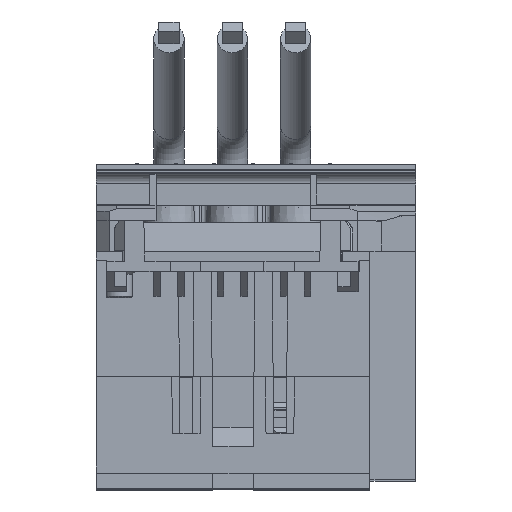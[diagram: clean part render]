
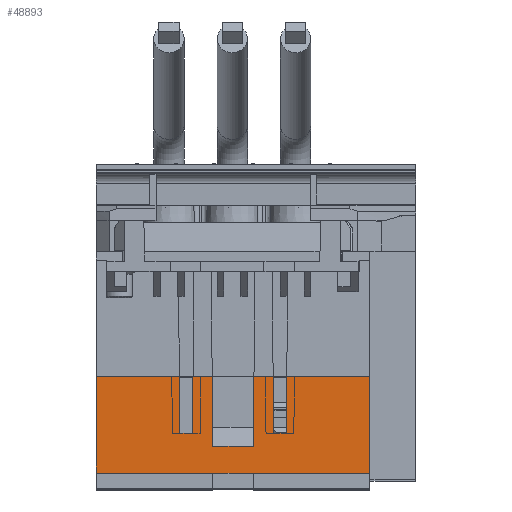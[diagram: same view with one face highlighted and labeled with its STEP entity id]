
A CAD part, top view. The second image highlights one B-rep face of the part: STEP entity #48893.
In plain terms, the highlighted planar face has unit normal (0, -0.009, 1).
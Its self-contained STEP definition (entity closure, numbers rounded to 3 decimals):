
#698 = ORIENTED_EDGE ( 'NONE', *, *, #84234, .T. ) ;
#805 = LINE ( 'NONE', #15078, #18890 ) ;
#3164 = EDGE_CURVE ( 'NONE', #59405, #69187, #29570, .T. ) ;
#4003 = VECTOR ( 'NONE', #42588, 1000. ) ;
#4058 = EDGE_CURVE ( 'NONE', #98570, #33558, #80145, .T. ) ;
#4220 = EDGE_CURVE ( 'NONE', #90945, #52188, #40220, .T. ) ;
#4389 = DIRECTION ( 'NONE',  ( -1., 0., 0. ) ) ;
#5443 = AXIS2_PLACEMENT_3D ( 'NONE', #92146, #85431, #39107 ) ;
#5594 = ORIENTED_EDGE ( 'NONE', *, *, #65256, .F. ) ;
#5787 = EDGE_CURVE ( 'NONE', #31001, #24300, #27935, .T. ) ;
#6821 = CARTESIAN_POINT ( 'NONE',  ( -8., -15.7, 199.902 ) ) ;
#7823 = VECTOR ( 'NONE', #25969, 1000. ) ;
#8043 = VECTOR ( 'NONE', #75244, 1000. ) ;
#9350 = DIRECTION ( 'NONE',  ( 0., -1., -0.009 ) ) ;
#10240 = EDGE_CURVE ( 'NONE', #69187, #79031, #42221, .T. ) ;
#10772 = LINE ( 'NONE', #44475, #79651 ) ;
#11869 = DIRECTION ( 'NONE',  ( -1., 0., 0. ) ) ;
#11957 = CARTESIAN_POINT ( 'NONE',  ( -27., -4.5, 199.999 ) ) ;
#12541 = CARTESIAN_POINT ( 'NONE',  ( -26., -15.7, 199.902 ) ) ;
#13113 = DIRECTION ( 'NONE',  ( 1., 0., 0. ) ) ;
#13457 = ORIENTED_EDGE ( 'NONE', *, *, #3164, .T. ) ;
#15078 = CARTESIAN_POINT ( 'NONE',  ( -27., 18.5, 200.2 ) ) ;
#15311 = LINE ( 'NONE', #37369, #8043 ) ;
#15885 = PLANE ( 'NONE',  #5443 ) ;
#16830 = LINE ( 'NONE', #37519, #51872 ) ;
#17399 = ORIENTED_EDGE ( 'NONE', *, *, #28994, .T. ) ;
#18436 = CARTESIAN_POINT ( 'NONE',  ( -27., -23.5, 199.833 ) ) ;
#18850 = VERTEX_POINT ( 'NONE', #19587 ) ;
#18887 = LINE ( 'NONE', #26280, #36946 ) ;
#18890 = VECTOR ( 'NONE', #9350, 1000. ) ;
#18983 = CARTESIAN_POINT ( 'NONE',  ( -26., -4.5, 199.999 ) ) ;
#19259 = CARTESIAN_POINT ( 'NONE',  ( -26., -15.7, 199.902 ) ) ;
#19587 = CARTESIAN_POINT ( 'NONE',  ( 4., -23.5, 199.833 ) ) ;
#20169 = LINE ( 'NONE', #19259, #53987 ) ;
#20214 = LINE ( 'NONE', #58701, #54041 ) ;
#20218 = ORIENTED_EDGE ( 'NONE', *, *, #30251, .T. ) ;
#20505 = ORIENTED_EDGE ( 'NONE', *, *, #64151, .T. ) ;
#20554 = DIRECTION ( 'NONE',  ( 1., 0., 0. ) ) ;
#20945 = VECTOR ( 'NONE', #73261, 1000. ) ;
#21684 = VERTEX_POINT ( 'NONE', #84166 ) ;
#22499 = VERTEX_POINT ( 'NONE', #92141 ) ;
#23607 = EDGE_CURVE ( 'NONE', #21684, #18850, #95360, .T. ) ;
#24057 = EDGE_CURVE ( 'NONE', #90945, #59704, #38487, .T. ) ;
#24300 = VERTEX_POINT ( 'NONE', #74189 ) ;
#24303 = DIRECTION ( 'NONE',  ( -0.009, -1., -0.009 ) ) ;
#25485 = VECTOR ( 'NONE', #46400, 1000. ) ;
#25493 = EDGE_CURVE ( 'NONE', #30395, #21684, #20214, .T. ) ;
#25517 = VECTOR ( 'NONE', #94459, 1000. ) ;
#25969 = DIRECTION ( 'NONE',  ( -0.009, -1., -0.009 ) ) ;
#26280 = CARTESIAN_POINT ( 'NONE',  ( -26., -4.5, 199.999 ) ) ;
#26379 = CARTESIAN_POINT ( 'NONE',  ( 8., -15.7, 199.902 ) ) ;
#27289 = DIRECTION ( 'NONE',  ( 1., 0., 0. ) ) ;
#27935 = LINE ( 'NONE', #32667, #25517 ) ;
#28863 = ORIENTED_EDGE ( 'NONE', *, *, #98124, .T. ) ;
#28994 = EDGE_CURVE ( 'NONE', #59704, #31001, #78179, .T. ) ;
#29080 = LINE ( 'NONE', #98774, #25485 ) ;
#29570 = LINE ( 'NONE', #95499, #7823 ) ;
#30251 = EDGE_CURVE ( 'NONE', #86601, #30395, #805, .T. ) ;
#30370 = CARTESIAN_POINT ( 'NONE',  ( 10.5, -15.7, 199.902 ) ) ;
#30395 = VERTEX_POINT ( 'NONE', #18436 ) ;
#31001 = VERTEX_POINT ( 'NONE', #26379 ) ;
#32401 = EDGE_LOOP ( 'NONE', ( #58626, #20218, #38113, #38689, #78245, #698, #67718, #98108, #17399, #39237, #5594, #13457, #70392, #28863, #93718, #86063, #74693, #20505 ) ) ;
#32667 = CARTESIAN_POINT ( 'NONE',  ( 8., -15.7, 199.902 ) ) ;
#33558 = VERTEX_POINT ( 'NONE', #6821 ) ;
#33655 = VECTOR ( 'NONE', #24303, 1000. ) ;
#36946 = VECTOR ( 'NONE', #27289, 1000. ) ;
#37369 = CARTESIAN_POINT ( 'NONE',  ( -26., -23.5, 199.833 ) ) ;
#37519 = CARTESIAN_POINT ( 'NONE',  ( 27., 18.5, 200.2 ) ) ;
#38113 = ORIENTED_EDGE ( 'NONE', *, *, #25493, .T. ) ;
#38463 = CARTESIAN_POINT ( 'NONE',  ( 4.122, -4.5, 199.999 ) ) ;
#38487 = LINE ( 'NONE', #47564, #33655 ) ;
#38689 = ORIENTED_EDGE ( 'NONE', *, *, #23607, .T. ) ;
#39107 = DIRECTION ( 'NONE',  ( 0., -1., -0.009 ) ) ;
#39237 = ORIENTED_EDGE ( 'NONE', *, *, #5787, .T. ) ;
#40220 = LINE ( 'NONE', #18983, #4003 ) ;
#40240 = VERTEX_POINT ( 'NONE', #99137 ) ;
#42221 = LINE ( 'NONE', #60228, #84535 ) ;
#42333 = CARTESIAN_POINT ( 'NONE',  ( -10.5, -15.7, 199.902 ) ) ;
#42534 = CARTESIAN_POINT ( 'NONE',  ( -4.003, -18.18, 199.88 ) ) ;
#42588 = DIRECTION ( 'NONE',  ( 1., 0., 0. ) ) ;
#43830 = EDGE_CURVE ( 'NONE', #33558, #48152, #20169, .T. ) ;
#44475 = CARTESIAN_POINT ( 'NONE',  ( -26., -4.5, 199.999 ) ) ;
#44618 = CARTESIAN_POINT ( 'NONE',  ( -7.902, -4.5, 199.999 ) ) ;
#46078 = CARTESIAN_POINT ( 'NONE',  ( 4.003, -18.18, 199.88 ) ) ;
#46400 = DIRECTION ( 'NONE',  ( -0.009, 1., 0.009 ) ) ;
#47564 = CARTESIAN_POINT ( 'NONE',  ( 10.778, 16.2, 200.18 ) ) ;
#48152 = VERTEX_POINT ( 'NONE', #42333 ) ;
#48893 = ADVANCED_FACE ( 'NONE', ( #81466 ), #15885, .T. ) ;
#50315 = VECTOR ( 'NONE', #11869, 1000. ) ;
#50953 = CARTESIAN_POINT ( 'NONE',  ( -26., -4.5, 199.999 ) ) ;
#51872 = VECTOR ( 'NONE', #68991, 1000. ) ;
#51892 = VECTOR ( 'NONE', #80696, 1000. ) ;
#52188 = VERTEX_POINT ( 'NONE', #57625 ) ;
#53987 = VECTOR ( 'NONE', #4389, 1000. ) ;
#54041 = VECTOR ( 'NONE', #13113, 1000. ) ;
#56044 = LINE ( 'NONE', #50953, #20945 ) ;
#57625 = CARTESIAN_POINT ( 'NONE',  ( 27., -4.5, 199.999 ) ) ;
#58481 = EDGE_CURVE ( 'NONE', #18850, #22499, #15311, .T. ) ;
#58626 = ORIENTED_EDGE ( 'NONE', *, *, #92065, .F. ) ;
#58701 = CARTESIAN_POINT ( 'NONE',  ( 4., -23.5, 199.833 ) ) ;
#59405 = VERTEX_POINT ( 'NONE', #38463 ) ;
#59704 = VERTEX_POINT ( 'NONE', #30370 ) ;
#59993 = DIRECTION ( 'NONE',  ( -0.009, 1., 0.009 ) ) ;
#60228 = CARTESIAN_POINT ( 'NONE',  ( -26., -18.18, 199.88 ) ) ;
#60898 = DIRECTION ( 'NONE',  ( -1., 0., 0. ) ) ;
#64151 = EDGE_CURVE ( 'NONE', #48152, #88227, #29080, .T. ) ;
#65256 = EDGE_CURVE ( 'NONE', #59405, #24300, #10772, .T. ) ;
#67718 = ORIENTED_EDGE ( 'NONE', *, *, #4220, .F. ) ;
#68991 = DIRECTION ( 'NONE',  ( 0., 1., 0.009 ) ) ;
#69187 = VERTEX_POINT ( 'NONE', #46078 ) ;
#70392 = ORIENTED_EDGE ( 'NONE', *, *, #10240, .T. ) ;
#70396 = DIRECTION ( 'NONE',  ( -0.009, -1., -0.009 ) ) ;
#73261 = DIRECTION ( 'NONE',  ( 1., 0., 0. ) ) ;
#74189 = CARTESIAN_POINT ( 'NONE',  ( 7.902, -4.5, 199.999 ) ) ;
#74693 = ORIENTED_EDGE ( 'NONE', *, *, #43830, .T. ) ;
#75244 = DIRECTION ( 'NONE',  ( 1., 0., 0. ) ) ;
#78179 = LINE ( 'NONE', #12541, #50315 ) ;
#78245 = ORIENTED_EDGE ( 'NONE', *, *, #58481, .T. ) ;
#78251 = CARTESIAN_POINT ( 'NONE',  ( 10.598, -4.5, 199.999 ) ) ;
#78914 = VECTOR ( 'NONE', #70396, 1000. ) ;
#79031 = VERTEX_POINT ( 'NONE', #42534 ) ;
#79651 = VECTOR ( 'NONE', #20554, 1000. ) ;
#80145 = LINE ( 'NONE', #85575, #78914 ) ;
#80696 = DIRECTION ( 'NONE',  ( 1., 0., 0. ) ) ;
#81466 = FACE_OUTER_BOUND ( 'NONE', #32401, .T. ) ;
#83257 = CARTESIAN_POINT ( 'NONE',  ( -4.003, -18.18, 199.88 ) ) ;
#84166 = CARTESIAN_POINT ( 'NONE',  ( -4., -23.5, 199.833 ) ) ;
#84234 = EDGE_CURVE ( 'NONE', #22499, #52188, #16830, .T. ) ;
#84535 = VECTOR ( 'NONE', #60898, 1000. ) ;
#85431 = DIRECTION ( 'NONE',  ( 0., -0.009, 1. ) ) ;
#85575 = CARTESIAN_POINT ( 'NONE',  ( -7.722, 16.2, 200.18 ) ) ;
#86063 = ORIENTED_EDGE ( 'NONE', *, *, #4058, .T. ) ;
#86601 = VERTEX_POINT ( 'NONE', #11957 ) ;
#86922 = LINE ( 'NONE', #83257, #97734 ) ;
#88227 = VERTEX_POINT ( 'NONE', #99705 ) ;
#88975 = EDGE_CURVE ( 'NONE', #98570, #40240, #18887, .T. ) ;
#90945 = VERTEX_POINT ( 'NONE', #78251 ) ;
#92065 = EDGE_CURVE ( 'NONE', #86601, #88227, #56044, .T. ) ;
#92141 = CARTESIAN_POINT ( 'NONE',  ( 27., -23.5, 199.833 ) ) ;
#92146 = CARTESIAN_POINT ( 'NONE',  ( -26., 18.5, 200.2 ) ) ;
#93718 = ORIENTED_EDGE ( 'NONE', *, *, #88975, .F. ) ;
#94459 = DIRECTION ( 'NONE',  ( -0.009, 1., 0.009 ) ) ;
#95360 = LINE ( 'NONE', #95852, #51892 ) ;
#95499 = CARTESIAN_POINT ( 'NONE',  ( 4.303, 16.2, 200.18 ) ) ;
#95852 = CARTESIAN_POINT ( 'NONE',  ( -26., -23.5, 199.833 ) ) ;
#97734 = VECTOR ( 'NONE', #59993, 1000. ) ;
#98108 = ORIENTED_EDGE ( 'NONE', *, *, #24057, .T. ) ;
#98124 = EDGE_CURVE ( 'NONE', #79031, #40240, #86922, .T. ) ;
#98570 = VERTEX_POINT ( 'NONE', #44618 ) ;
#98774 = CARTESIAN_POINT ( 'NONE',  ( -10.5, -15.7, 199.902 ) ) ;
#99137 = CARTESIAN_POINT ( 'NONE',  ( -4.122, -4.5, 199.999 ) ) ;
#99705 = CARTESIAN_POINT ( 'NONE',  ( -10.598, -4.5, 199.999 ) ) ;
